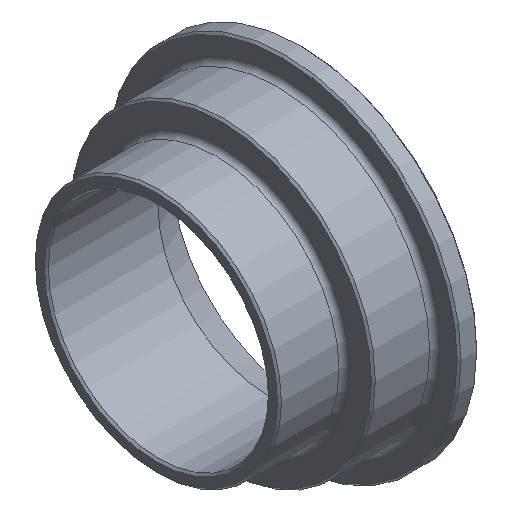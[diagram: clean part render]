
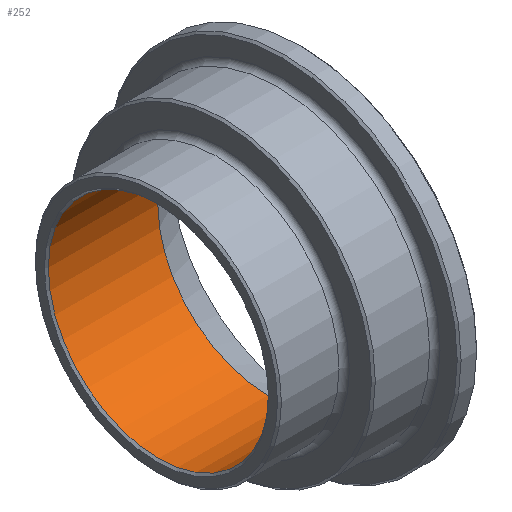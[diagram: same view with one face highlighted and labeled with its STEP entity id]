
A CAD part, isometric view. The second image highlights one B-rep face of the part: STEP entity #252.
In plain terms, the highlighted cylindrical face has radius 17 mm (diameter 34 mm), a full revolution.
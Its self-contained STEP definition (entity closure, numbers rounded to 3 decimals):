
#32=LINE('',#464,#42);
#42=VECTOR('',#382,17.);
#51=CYLINDRICAL_SURFACE('',#306,17.);
#61=FACE_OUTER_BOUND('',#80,.T.);
#80=EDGE_LOOP('',(#205,#206,#207,#208,#209));
#104=CIRCLE('',#302,17.);
#105=CIRCLE('',#303,17.);
#107=CIRCLE('',#307,17.);
#127=VERTEX_POINT('',#453);
#128=VERTEX_POINT('',#455);
#130=VERTEX_POINT('',#462);
#155=EDGE_CURVE('',#127,#128,#104,.T.);
#156=EDGE_CURVE('',#128,#127,#105,.T.);
#158=EDGE_CURVE('',#130,#130,#107,.T.);
#159=EDGE_CURVE('',#130,#128,#32,.T.);
#205=ORIENTED_EDGE('',*,*,#158,.T.);
#206=ORIENTED_EDGE('',*,*,#159,.T.);
#207=ORIENTED_EDGE('',*,*,#155,.F.);
#208=ORIENTED_EDGE('',*,*,#156,.F.);
#209=ORIENTED_EDGE('',*,*,#159,.F.);
#252=ADVANCED_FACE('',(#61),#51,.F.);
#302=AXIS2_PLACEMENT_3D('',#456,#370,#371);
#303=AXIS2_PLACEMENT_3D('',#457,#372,#373);
#306=AXIS2_PLACEMENT_3D('',#461,#378,#379);
#307=AXIS2_PLACEMENT_3D('',#463,#380,#381);
#370=DIRECTION('center_axis',(1.,0.,0.));
#371=DIRECTION('ref_axis',(0.,-1.,0.));
#372=DIRECTION('center_axis',(1.,0.,0.));
#373=DIRECTION('ref_axis',(0.,-1.,0.));
#378=DIRECTION('center_axis',(1.,0.,0.));
#379=DIRECTION('ref_axis',(0.,1.,0.));
#380=DIRECTION('center_axis',(1.,0.,0.));
#381=DIRECTION('ref_axis',(0.,0.,-1.));
#382=DIRECTION('',(-1.,0.,0.));
#453=CARTESIAN_POINT('',(-22.2,17.,0.));
#455=CARTESIAN_POINT('',(-22.2,-17.,0.));
#456=CARTESIAN_POINT('Origin',(-22.2,0.,0.));
#457=CARTESIAN_POINT('Origin',(-22.2,0.,0.));
#461=CARTESIAN_POINT('Origin',(-13.891,0.,0.));
#462=CARTESIAN_POINT('',(-5.283,-17.,0.));
#463=CARTESIAN_POINT('Origin',(-5.283,0.,0.));
#464=CARTESIAN_POINT('',(-13.891,-17.,0.));
